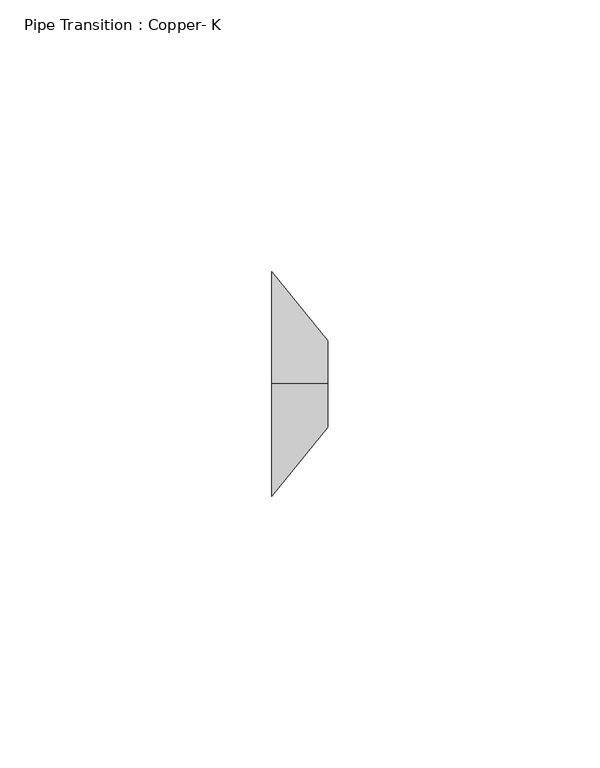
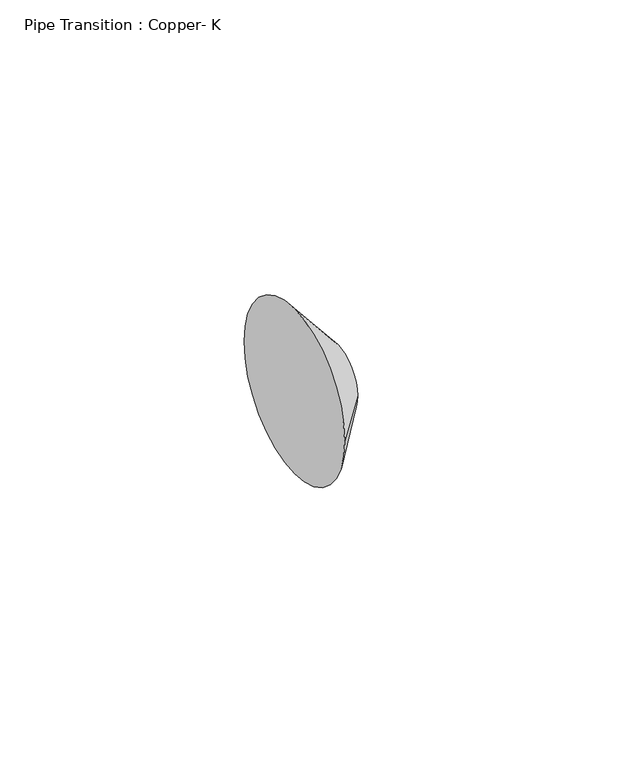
"""IFC4 building model written with IfcOpenShell, lengths in millimetres: pipe fitting geometry, Pipe Transition : Copper- K."""

from ifc_helpers import new_model, si_unit, frame, origin, place, context, project, spatial, circle_curve, source, transform, mapped, element, save
from ifc_brep_helpers import plane_surface, spline_surface, advanced_brep


def pipe_transition_copper_k_2cc0d8ed(model_context):
    return source(origin(), model_context, "Body", "AdvancedBrep", [
        advanced_brep(
        [(10.31875, 0.0, 7.9711962), (10.31875, -7.9375, 0.0336962), (10.31875, 0.0, -7.9038038), (10.31875, 7.9375, 0.0336962), (0.0, 0.0, 20.6375), (0.0, 20.6375, 0.0), (0.0, 0.0, -20.6375), (0.0, -20.6375, 0.0)],
        [
            (0, 1, circle_curve(frame((10.31875, 0.0, 0.0336962), z_axis=(1.0, 0.0, 0.0), x_axis=(0.0, 1.0, 0.0)), 7.9375)),
            (1, 2, circle_curve(frame((10.31875, 0.0, 0.0336962), z_axis=(1.0, 0.0, 0.0), x_axis=(0.0, 1.0, 0.0)), 7.9375)),
            (2, 3, circle_curve(frame((10.31875, 0.0, 0.0336962), z_axis=(1.0, 0.0, 0.0), x_axis=(0.0, 1.0, 0.0)), 7.9375)),
            (3, 0, circle_curve(frame((10.31875, 0.0, 0.0336962), z_axis=(1.0, 0.0, 0.0), x_axis=(0.0, 1.0, 0.0)), 7.9375)),
            (4, 5, circle_curve(frame((0.0, 0.0, 0.0), z_axis=(-1.0, 0.0, 0.0), x_axis=(0.0, 1.0, 0.0)), 20.6375)),
            (5, 6, circle_curve(frame((0.0, 0.0, 0.0), z_axis=(-1.0, 0.0, 0.0), x_axis=(0.0, 1.0, 0.0)), 20.6375)),
            (6, 7, circle_curve(frame((0.0, 0.0, 0.0), z_axis=(-1.0, 0.0, 0.0), x_axis=(0.0, 1.0, 0.0)), 20.6375)),
            (7, 4, circle_curve(frame((0.0, 0.0, 0.0), z_axis=(-1.0, 0.0, 0.0), x_axis=(0.0, 1.0, 0.0)), 20.6375)),
            (7, 1),
            (0, 4),
            (6, 2),
            (5, 3),
        ],
        [
            plane_surface(frame((10.31875, 0.0, 0.0336962), z_axis=(1.0, 0.0, 0.0), x_axis=(0.0, -1.0, 0.0))),
            plane_surface(frame((0.0, 0.0, 0.0), z_axis=(-1.0, 0.0, 0.0), x_axis=(0.0, -1.0, 0.0))),
            spline_surface(2, 1, [[(0.0, 0.0, 20.6375), (10.31875, 0.0, 7.9711962)], [(0.0, -20.6375, 20.6375), (10.31875, -7.9375, 7.9711962)], [(0.0, -20.6375, 0.0), (10.31875, -7.9375, 0.0336962)]], [3, 3], [2, 2], [0.0, 1.0], [0.0, 1.0], weights=[[1.0, 1.0], [0.7071067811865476, 0.7071067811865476], [1.0, 1.0]]),
            spline_surface(2, 1, [[(0.0, -20.6375, 0.0), (10.31875, -7.9375, 0.0336962)], [(0.0, -20.6375, -20.6375), (10.31875, -7.9375, -7.9038038)], [(0.0, 0.0, -20.6375), (10.31875, 0.0, -7.9038038)]], [3, 3], [2, 2], [0.0, 1.0], [0.0, 1.0], weights=[[1.0, 1.0], [0.7071067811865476, 0.7071067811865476], [1.0, 1.0]]),
            spline_surface(2, 1, [[(0.0, 0.0, -20.6375), (10.31875, 0.0, -7.9038038)], [(0.0, 20.6375, -20.6375), (10.31875, 7.9375, -7.9038038)], [(0.0, 20.6375, 0.0), (10.31875, 7.9375, 0.0336962)]], [3, 3], [2, 2], [0.0, 1.0], [0.0, 1.0], weights=[[1.0, 1.0], [0.7071067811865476, 0.7071067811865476], [1.0, 1.0]]),
            spline_surface(2, 1, [[(0.0, 20.6375, 0.0), (10.31875, 7.9375, 0.0336962)], [(0.0, 20.6375, 20.6375), (10.31875, 7.9375, 7.9711962)], [(0.0, 0.0, 20.6375), (10.31875, 0.0, 7.9711962)]], [3, 3], [2, 2], [0.0, 1.0], [0.0, 1.0], weights=[[1.0, 1.0], [0.7071067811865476, 0.7071067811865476], [1.0, 1.0]]),
        ],
        [
            (0, [[1, 2, 3, 4]]),
            (1, [[5, 6, 7, 8]]),
            (2, [[-8, 9, -1, 10]]),
            (3, [[-7, 11, -2, -9]]),
            (4, [[-6, 12, -3, -11]]),
            (5, [[-5, -10, -4, -12]]),
        ],
    ),
        advanced_brep(
        [(10.31875, 0.0, 7.9711962), (10.31875, -7.9375, 0.0336962), (10.31875, 0.0, -7.9038038), (10.31875, 7.9375, 0.0336962), (0.0, 0.0, 20.6375), (0.0, 20.6375, 0.0), (0.0, 0.0, -20.6375), (0.0, -20.6375, 0.0)],
        [
            (0, 1, circle_curve(frame((10.31875, 0.0, 0.0336962), z_axis=(1.0, 0.0, 0.0), x_axis=(0.0, 1.0, 0.0)), 7.9375)),
            (1, 2, circle_curve(frame((10.31875, 0.0, 0.0336962), z_axis=(1.0, 0.0, 0.0), x_axis=(0.0, 1.0, 0.0)), 7.9375)),
            (2, 3, circle_curve(frame((10.31875, 0.0, 0.0336962), z_axis=(1.0, 0.0, 0.0), x_axis=(0.0, 1.0, 0.0)), 7.9375)),
            (3, 0, circle_curve(frame((10.31875, 0.0, 0.0336962), z_axis=(1.0, 0.0, 0.0), x_axis=(0.0, 1.0, 0.0)), 7.9375)),
            (4, 5, circle_curve(frame((0.0, 0.0, 0.0), z_axis=(-1.0, 0.0, 0.0), x_axis=(0.0, 1.0, 0.0)), 20.6375)),
            (5, 6, circle_curve(frame((0.0, 0.0, 0.0), z_axis=(-1.0, 0.0, 0.0), x_axis=(0.0, 1.0, 0.0)), 20.6375)),
            (6, 7, circle_curve(frame((0.0, 0.0, 0.0), z_axis=(-1.0, 0.0, 0.0), x_axis=(0.0, 1.0, 0.0)), 20.6375)),
            (7, 4, circle_curve(frame((0.0, 0.0, 0.0), z_axis=(-1.0, 0.0, 0.0), x_axis=(0.0, 1.0, 0.0)), 20.6375)),
            (7, 1),
            (0, 4),
            (6, 2),
            (5, 3),
        ],
        [
            plane_surface(frame((10.31875, 0.0, 0.0336962), z_axis=(1.0, 0.0, 0.0), x_axis=(0.0, -1.0, 0.0))),
            plane_surface(frame((0.0, 0.0, 0.0), z_axis=(-1.0, 0.0, 0.0), x_axis=(0.0, -1.0, 0.0))),
            spline_surface(2, 1, [[(0.0, 0.0, 20.6375), (10.31875, 0.0, 7.9711962)], [(0.0, -20.6375, 20.6375), (10.31875, -7.9375, 7.9711962)], [(0.0, -20.6375, 0.0), (10.31875, -7.9375, 0.0336962)]], [3, 3], [2, 2], [0.0, 1.0], [0.0, 1.0], weights=[[1.0, 1.0], [0.7071067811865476, 0.7071067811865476], [1.0, 1.0]]),
            spline_surface(2, 1, [[(0.0, -20.6375, 0.0), (10.31875, -7.9375, 0.0336962)], [(0.0, -20.6375, -20.6375), (10.31875, -7.9375, -7.9038038)], [(0.0, 0.0, -20.6375), (10.31875, 0.0, -7.9038038)]], [3, 3], [2, 2], [0.0, 1.0], [0.0, 1.0], weights=[[1.0, 1.0], [0.7071067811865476, 0.7071067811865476], [1.0, 1.0]]),
            spline_surface(2, 1, [[(0.0, 0.0, -20.6375), (10.31875, 0.0, -7.9038038)], [(0.0, 20.6375, -20.6375), (10.31875, 7.9375, -7.9038038)], [(0.0, 20.6375, 0.0), (10.31875, 7.9375, 0.0336962)]], [3, 3], [2, 2], [0.0, 1.0], [0.0, 1.0], weights=[[1.0, 1.0], [0.7071067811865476, 0.7071067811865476], [1.0, 1.0]]),
            spline_surface(2, 1, [[(0.0, 20.6375, 0.0), (10.31875, 7.9375, 0.0336962)], [(0.0, 20.6375, 20.6375), (10.31875, 7.9375, 7.9711962)], [(0.0, 0.0, 20.6375), (10.31875, 0.0, 7.9711962)]], [3, 3], [2, 2], [0.0, 1.0], [0.0, 1.0], weights=[[1.0, 1.0], [0.7071067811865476, 0.7071067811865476], [1.0, 1.0]]),
        ],
        [
            (0, [[1, 2, 3, 4]]),
            (1, [[5, 6, 7, 8]]),
            (2, [[-8, 9, -1, 10]]),
            (3, [[-7, 11, -2, -9]]),
            (4, [[-6, 12, -3, -11]]),
            (5, [[-5, -10, -4, -12]]),
        ],
    ),
    ])


if __name__ == "__main__":
    model = new_model("IFC4")
    model_context = context("Model", 3, world=origin())
    ifc_project = project(units=[si_unit("LENGTHUNIT", "METRE", prefix="MILLI")], contexts=[model_context])
    site = spatial("IfcSite", under=ifc_project)
    building = spatial("IfcBuilding", under=site)
    placement = place(None, origin())
    pipe_transition_copper_k_shape = pipe_transition_copper_k_2cc0d8ed(model_context)
    element("IfcPipeFitting", 1, ObjectType="Pipe Transition : Copper- K", at=placement, inside=building, context=model_context, shape_type="MappedRepresentation", body=[
        mapped(pipe_transition_copper_k_shape, transform((0.0, 0.0, 0.0), x_axis=(1.0, 0.0, 0.0), y_axis=(0.0, 1.0, 0.0), z_axis=(0.0, 0.0, 1.0))),
    ])
    save(model, "model.ifc")
